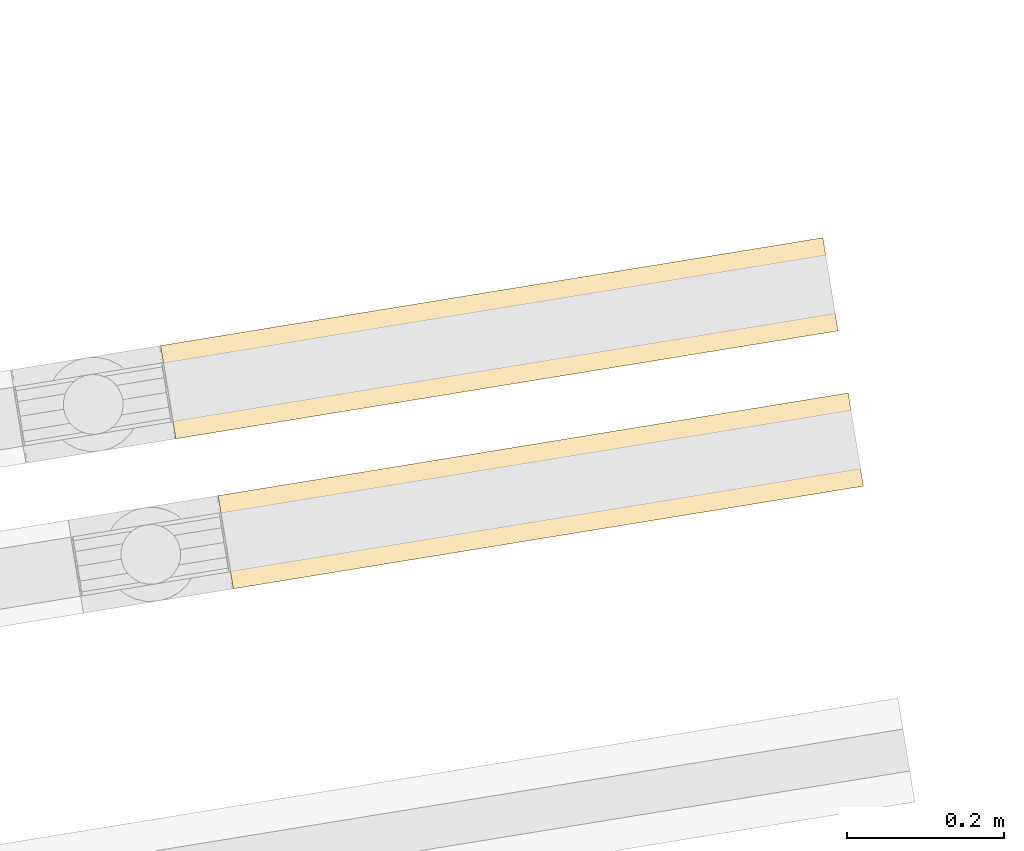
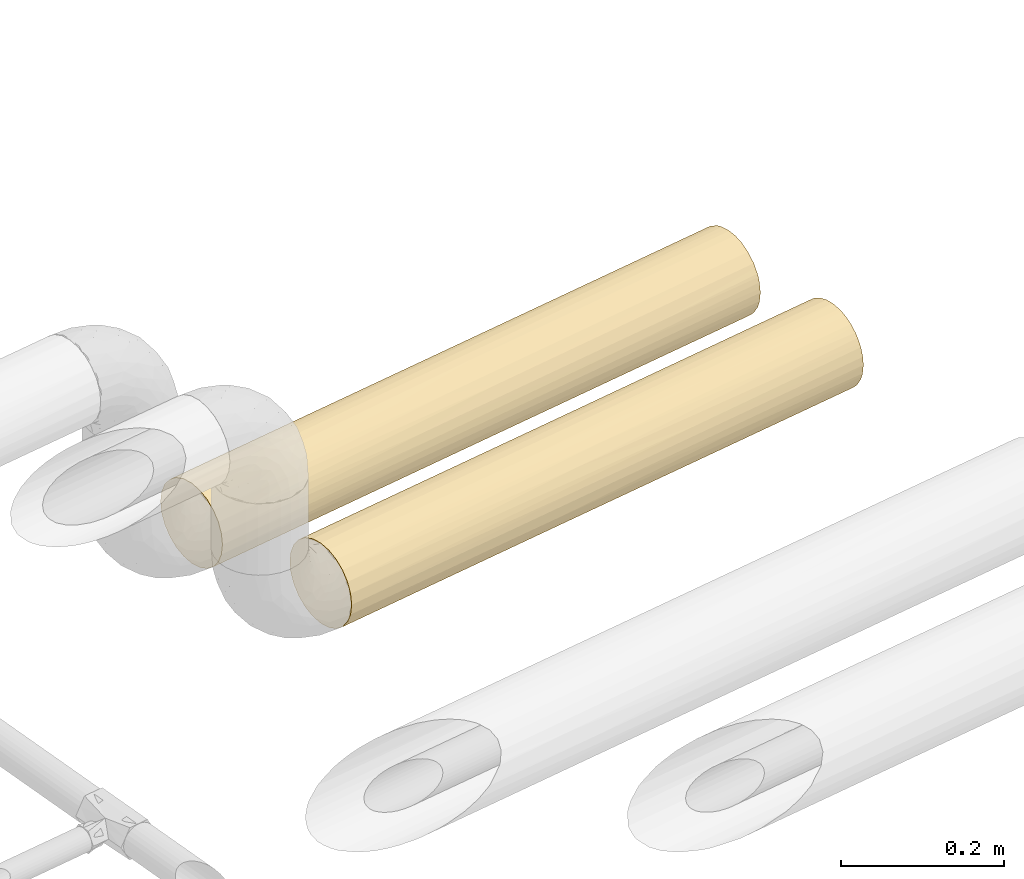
# One storey, part 17 of 56: 2 coverings.
"""IFC2X3 building model written with IfcOpenShell, lengths in millimetres."""

from ifc_helpers import new_model, entity, si_unit, converted_unit, derived_unit, direction, frame, origin, origin_with_axes, place, context, subcontext, project, spatial, faceted_brep, type_object, element, save


model = new_model("IFC2X3")

# Units and contexts
model_context = context("Model", 3, precision=0.01, world=origin(), true_north=direction((6.12323399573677e-17, 1.0)))
plan_context = context("Plan", 3, precision=1e-05, world=origin_with_axes())
body_context = subcontext(model_context, "Body", "Model", "MODEL_VIEW")
ifc_project = project(units=[converted_unit("PLANEANGLEUNIT", "DEGREE", entity("IfcPositiveLengthMeasure", 0.0174532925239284), si_unit("PLANEANGLEUNIT", "RADIAN"), dimensions=[0, 0, 0, 0, 0, 0, 0]), si_unit("AREAUNIT", "SQUARE_METRE"), si_unit("LENGTHUNIT", "METRE", prefix="MILLI"), si_unit("MASSUNIT", "GRAM", prefix="KILO"), si_unit("POWERUNIT", "WATT"), si_unit("PRESSUREUNIT", "PASCAL", prefix="KILO"), si_unit("FORCEUNIT", "NEWTON", prefix="KILO"), si_unit("ELECTRICVOLTAGEUNIT", "VOLT"), si_unit("ELECTRICCURRENTUNIT", "AMPERE"), si_unit("THERMODYNAMICTEMPERATUREUNIT", "DEGREE_CELSIUS"), si_unit("TIMEUNIT", "SECOND"), si_unit("VOLUMEUNIT", "CUBIC_METRE"), derived_unit("LINEARVELOCITYUNIT", [(si_unit("LENGTHUNIT", "METRE"), 1), (si_unit("TIMEUNIT", "SECOND"), -1)]), derived_unit("VOLUMETRICFLOWRATEUNIT", [(si_unit("VOLUMEUNIT", "CUBIC_METRE"), 1), (si_unit("TIMEUNIT", "SECOND"), -1)]), derived_unit("THERMALTRANSMITTANCEUNIT", [(si_unit("POWERUNIT", "WATT"), 1), (si_unit("THERMODYNAMICTEMPERATUREUNIT", "KELVIN"), -1), (si_unit("AREAUNIT", "SQUARE_METRE"), -1)]), derived_unit("SOUNDPRESSUREUNIT", [(si_unit("PRESSUREUNIT", "PASCAL"), 1)])], contexts=[model_context, plan_context])

# Site, building, storey
site_placement = place(None, frame((-3.09682673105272e-06, 1.93776733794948e-05, 0.0), z_axis=(0.0, 0.0, 1.0), x_axis=(-0.160806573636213, 0.986985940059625, 0.0)))
site = spatial("IfcSite", under=ifc_project, at=site_placement, Name="Default", CompositionType="ELEMENT")
building_placement = place(site_placement, frame((0.0, 0.0, 0.0), z_axis=(0.0, 0.0, 1.0), x_axis=(1.0, -2.77555756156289e-17, 0.0)))
building = spatial("IfcBuilding", under=site, at=building_placement, Name="Bygning (endres i Project Information)", CompositionType="ELEMENT")
storey_placement = place(building_placement, frame((0.0, 0.0, 51360.0000000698), z_axis=(0.0, 0.0, 1.0), x_axis=(1.0, -2.77555756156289e-17, 0.0)))
storey = spatial("IfcBuildingStorey", under=building, at=storey_placement, Name="H01-Nivå D+0,36", CompositionType="ELEMENT", Elevation=51360.0000000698)

# Coverings
covering_type = type_object("IfcCoveringType", Name="Pipe Insulation:GLAVA avløpsisol. slange økende 19mm (15,5-25,0)", PredefinedType="INSULATION")
covering_1_placement = place(storey_placement, frame((1011626.7223714, -397714.315734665, 3361.64527153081), z_axis=(0.0, 0.0, 1.0), x_axis=(1.0, -2.77555756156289e-17, 0.0)))
element("IfcCovering", 1, at=covering_1_placement, inside=storey, type_object=covering_type, Name="Pipe Insulation:GLAVA avløpsisol. slange økende 19mm (15,5-25,0)", ObjectType="Pipe Insulation:GLAVA avløpsisol. slange økende 19mm (15,5-25,0)", PredefinedType="INSULATION", context=body_context, shape_type="Brep", body=[
    faceted_brep([(31.6202718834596, 1947.0, -9.64044664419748), (19.1835098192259, 1947.0, -19.183509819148), (9.64044664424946, 1947.0, -31.6202718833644), (3.64142634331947, 1947.0, -46.1031880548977), (1.59527223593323, 1947.0, -61.6452715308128), (3.64142634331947, 1947.0, -77.1873550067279), (9.64044664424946, 1947.0, -91.6702711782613), (19.1835098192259, 1947.0, -104.107033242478), (31.6202718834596, 1947.0, -113.650096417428), (46.103188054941, 1947.0, -119.649116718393), (61.6452715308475, 1947.0, -121.69527082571), (77.1873550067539, 1947.0, -119.649116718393), (91.6702711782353, 1947.0, -113.650096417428), (104.107033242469, 1947.0, -104.107033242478), (113.650096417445, 1947.0, -91.6702711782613), (119.649116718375, 1947.0, -77.1873550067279), (121.695270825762, 1947.0, -61.6452715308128), (119.649116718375, 1947.0, -46.1031880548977), (113.650096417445, 1947.0, -31.6202718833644), (104.107033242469, 1947.0, -19.183509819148), (91.6702711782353, 1947.0, -9.64044664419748), (77.1873550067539, 1947.0, -3.64142634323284), (61.6452715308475, 1947.0, -1.5952722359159), (46.103188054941, 1947.0, -3.64142634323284), (100.415582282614, 1135.23167786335, -107.225652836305), (106.2381784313, 1135.23167786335, -101.729188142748), (104.730043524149, 1215.25672826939, -103.474744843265), (97.2269087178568, 1135.23167786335, -110.015932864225), (98.201394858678, 1536.73526809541, -109.28613909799), (109.286138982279, 1583.05272306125, -98.2013950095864), (111.755784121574, 1278.27635835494, -94.7351331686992), (117.124236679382, 1393.32019884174, -84.6254116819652), (114.714479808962, 1135.23167786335, -88.8623379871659), (117.699317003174, 1135.23167786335, -83.1480972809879), (119.399972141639, 1135.23167786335, -77.2556246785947), (120.752876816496, 1298.48679588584, -72.2421301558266), (120.777933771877, 1135.23167786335, -72.100672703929), (121.493485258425, 1135.23167786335, -59.4205630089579), (120.124720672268, 1135.23167786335, -48.1562262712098), (120.71528746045, 1339.30504479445, -50.8408449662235), (121.695270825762, 1135.23167786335, -61.6452715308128), (121.695270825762, 1514.65787398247, -61.6452715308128), (119.264415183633, 1621.50531674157, -44.7326519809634), (115.103418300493, 1611.67960646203, -34.2914973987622), (109.286139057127, 1536.73526984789, -25.0891481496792), (98.2013949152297, 1583.05272576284, -14.0044040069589), (103.474744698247, 1215.25672981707, -18.5604993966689), (110.015932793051, 1135.23167786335, -26.0636342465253), (107.225652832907, 1135.23167786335, -22.8749607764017), (101.729187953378, 1135.23167786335, -17.0523644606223), (116.285623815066, 1135.23167786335, -36.7726166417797), (111.742207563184, 1135.23167786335, -29.0860600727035), (117.124236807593, 1341.78697641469, -38.6651316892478), (118.848753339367, 1135.23167786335, -43.8270256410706), (73.1648934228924, 1135.23167786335, -2.71056545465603), (73.1632274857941, 1135.23167786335, -2.71036248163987), (73.1645694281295, 1135.26319858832, -2.71049239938), (73.1680212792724, 1135.23167786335, -2.71158232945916), (85.6093439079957, 1135.23167786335, -6.5889125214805), (84.6254113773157, 1393.32020453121, -6.16630625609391), (89.9750119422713, 1135.23167786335, -8.92726226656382), (94.7351329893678, 1278.27636287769, -11.5347588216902), (73.5038223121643, 1593.1672010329, -2.77781712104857), (61.6452715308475, 1405.84076529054, -1.59527223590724), (61.6452715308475, 1514.65347716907, -1.59527223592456), (44.7326519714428, 1621.50531687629, -4.02612788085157), (50.8408449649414, 1339.30504523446, -2.57525560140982), (38.665131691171, 1341.78697651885, -6.16630625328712), (34.2914973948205, 1611.67960648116, -8.18712476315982), (25.0891481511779, 1536.73526973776, -14.0044040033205), (14.0044040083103, 1583.05272552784, -25.089148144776), (18.5604994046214, 1215.25673025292, -19.8157983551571), (26.0636342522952, 1135.23167786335, -13.2746102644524), (22.874960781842, 1135.23167786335, -16.0648902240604), (17.0523644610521, 1135.23167786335, -21.5613551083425), (36.7726166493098, 1135.23167786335, -7.00491924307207), (29.0860600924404, 1135.23167786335, -11.5483354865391), (43.8270256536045, 1135.23167786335, -4.44178971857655), (59.4204905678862, 1135.23167786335, -1.7970643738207), (48.1562262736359, 1135.23167786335, -3.16582238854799), (2.71056545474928, 1135.23167786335, -50.1256496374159), (2.71036248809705, 1135.23167786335, -50.1273155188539), (2.7104924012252, 1135.2631978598, -50.1259736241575), (2.71158230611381, 1135.23167786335, -50.1225218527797), (6.58891252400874, 1135.23167786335, -37.6811991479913), (6.166306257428, 1393.32020438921, -38.6651316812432), (8.92726227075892, 1135.23167786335, -33.3155311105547), (11.5347588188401, 1278.27636274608, -28.5554100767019), (2.77781712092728, 1593.16720079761, -49.7867207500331), (1.59527223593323, 1405.84220919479, -61.6452715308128), (1.59527223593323, 1514.65668235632, -61.6452715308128), (4.02612788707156, 1621.50531713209, -78.5578911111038), (2.57525560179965, 1339.30504612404, -72.4496980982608), (6.16630625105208, 1341.78697662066, -84.625411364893), (8.18712476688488, 1611.67960634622, -88.999045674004), (14.0044039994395, 1536.73526944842, -98.2013949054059), (25.0891481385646, 1583.05272498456, -109.28613904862), (19.8157983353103, 1215.25673113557, -104.730043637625), (13.2746102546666, 1135.23167786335, -97.2269087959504), (16.0648902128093, 1135.23167786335, -100.415582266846), (21.5613551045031, 1135.23167786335, -106.238178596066), (7.00491923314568, 1135.23167786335, -86.5179263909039), (11.5483354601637, 1135.23167786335, -94.2044829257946), (4.44178970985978, 1135.23167786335, -79.4635173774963), (1.79706501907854, 1135.23167786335, -63.870059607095), (3.16582238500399, 1135.23167786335, -75.1343167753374), (50.1256496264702, 1135.23167786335, -120.579977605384), (50.1273154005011, 1135.23167786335, -120.580180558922), (50.1259735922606, 1135.26319580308, -120.580050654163), (50.1225220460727, 1135.23167786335, -120.578960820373), (37.6811991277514, 1135.23167786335, -116.701630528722), (38.6651316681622, 1393.32020394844, -117.124236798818), (33.3155310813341, 1135.23167786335, -114.36328077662), (28.5554100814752, 1278.27636236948, -111.755784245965), (49.7867207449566, 1593.16720014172, -120.512725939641), (61.6452715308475, 1405.84231915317, -121.695270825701), (61.6452715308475, 1514.6580858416, -121.695270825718), (78.5578911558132, 1621.50531755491, -119.264415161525), (72.4496980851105, 1339.30504809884, -120.71528746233), (84.6254113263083, 1341.78697605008, -117.124236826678), (88.9990456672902, 1611.67960500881, -115.103418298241), (75.1343166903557, 1135.23167786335, -120.124720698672), (79.4635172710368, 1135.23167786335, -118.848753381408), (63.8699658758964, 1135.23167786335, -121.493486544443), (86.5179262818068, 1135.23167786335, -116.285623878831), (94.2044827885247, 1135.23167786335, -111.742207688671), (61.6452715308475, 1135.23167786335, -121.695270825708), (26.928543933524, 1135.23167786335, -110.59667329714), (1.59527223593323, 1135.23167786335, -61.6452715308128), (12.6938697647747, 1135.23167786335, -26.92854393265), (61.6452715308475, 1135.23167786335, -1.59527223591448), (96.3619991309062, 1135.23167786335, -12.6938697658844), (120.002522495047, 1616.67130978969, -75.8027315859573), (121.464584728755, 1135.23167786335, -64.2392480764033), (110.596673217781, 1135.23167786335, -96.3619992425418)], [[[0, 1, 2, 3, 4, 5, 6, 7, 8, 9, 10, 11, 12, 13, 14, 15, 16, 17, 18, 19, 20, 21, 22, 23]], [[24, 25, 26]], [[27, 24, 26, 28]], [[28, 26, 29]], [[29, 26, 30]], [[31, 29, 30]], [[32, 33, 31, 30]], [[33, 34, 35, 31]], [[34, 36, 35]], [[37, 38, 39]], [[40, 37, 39, 41]], [[39, 42, 41]], [[42, 16, 41]], [[16, 42, 17]], [[42, 43, 17]], [[18, 17, 43]], [[43, 44, 18]], [[44, 19, 18]], [[19, 44, 45]], [[44, 46, 45]], [[47, 48, 46, 44]], [[48, 49, 46]], [[50, 51, 52]], [[53, 50, 52]], [[54, 55, 56]], [[57, 54, 56]], [[58, 57, 56, 59]], [[60, 58, 59, 61]], [[59, 45, 61]], [[45, 59, 20]], [[59, 21, 20]], [[59, 62, 21]], [[21, 62, 22]], [[63, 64, 22, 62]], [[63, 62, 56]], [[65, 22, 64]], [[66, 65, 64]], [[66, 67, 65]], [[68, 65, 67]], [[65, 68, 23]], [[0, 23, 68]], [[68, 69, 0]], [[69, 1, 0]], [[1, 69, 70]], [[69, 71, 70]], [[72, 73, 71, 69]], [[73, 74, 71]], [[75, 76, 67]], [[77, 75, 67]], [[78, 79, 66]], [[80, 81, 82]], [[83, 80, 82]], [[84, 83, 82, 85]], [[86, 84, 85, 87]], [[85, 70, 87]], [[70, 85, 2]], [[85, 3, 2]], [[85, 88, 3]], [[3, 88, 4]], [[89, 90, 4, 88]], [[89, 88, 82]], [[91, 4, 90]], [[92, 91, 90]], [[92, 93, 91]], [[94, 91, 93]], [[91, 94, 5]], [[6, 5, 94]], [[94, 95, 6]], [[95, 7, 6]], [[7, 95, 96]], [[95, 97, 96]], [[98, 99, 97, 95]], [[99, 100, 97]], [[101, 102, 93]], [[103, 101, 93]], [[104, 105, 92]], [[106, 107, 108]], [[109, 106, 108]], [[110, 109, 108, 111]], [[112, 110, 111, 113]], [[111, 96, 113]], [[96, 111, 8]], [[111, 9, 8]], [[111, 114, 9]], [[9, 114, 10]], [[115, 116, 10, 114]], [[115, 114, 108]], [[117, 10, 116]], [[118, 117, 116]], [[118, 119, 117]], [[120, 117, 119]], [[117, 120, 11]], [[12, 11, 120]], [[120, 28, 12]], [[28, 13, 12]], [[28, 120, 119]], [[121, 122, 119, 118]], [[123, 121, 118]], [[124, 125, 119]], [[122, 124, 119]], [[10, 117, 11]], [[126, 123, 118, 116]], [[111, 108, 114]], [[107, 126, 115, 108]], [[127, 112, 113]], [[100, 127, 113, 97]], [[102, 98, 95, 93]], [[96, 97, 113]], [[96, 8, 7]], [[95, 94, 93]], [[105, 103, 93, 92]], [[4, 91, 5]], [[128, 104, 92, 90]], [[85, 82, 88]], [[81, 128, 89, 82]], [[129, 86, 87]], [[74, 129, 87, 71]], [[76, 72, 69, 67]], [[70, 71, 87]], [[70, 2, 1]], [[69, 68, 67]], [[79, 77, 67, 66]], [[22, 65, 23]], [[130, 78, 66, 64]], [[59, 56, 62]], [[55, 130, 63, 56]], [[131, 60, 61]], [[49, 131, 61, 46]], [[51, 47, 44, 52]], [[45, 46, 61]], [[45, 20, 19]], [[44, 43, 52]], [[43, 42, 52]], [[132, 41, 16]], [[16, 15, 132]], [[15, 14, 132]], [[31, 132, 14]], [[41, 132, 35]], [[39, 52, 42]], [[133, 40, 41, 35]], [[38, 53, 52, 39]], [[36, 133, 35]], [[31, 35, 132]], [[29, 31, 14]], [[29, 14, 13]], [[28, 29, 13]], [[125, 27, 28, 119]], [[25, 134, 30, 26]], [[134, 32, 30]], [[27, 125, 124, 122, 121, 123, 126, 108, 110, 112, 127, 100, 99, 98, 102, 101, 103, 105, 104, 128, 82, 84, 86, 129, 74, 73, 72, 76, 75, 77, 79, 78, 130, 56, 58, 60, 131, 49, 48, 47, 51, 50, 53, 38, 37, 40, 133, 36, 34, 33, 32, 134, 25, 24]]], orient=[[False], [False], [False], [False], [False], [False], [False], [False], [False], [False], [False], [False], [False], [False], [False], [False], [False], [False], [False], [False], [False], [False], [False], [False], [False], [False], [False], [False], [False], [False], [False], [False], [False], [False], [False], [False], [False], [False], [False], [False], [False], [False], [False], [False], [False], [False], [False], [False], [False], [False], [False], [False], [False], [False], [False], [False], [False], [False], [False], [False], [False], [False], [False], [False], [False], [False], [False], [False], [False], [False], [False], [False], [False], [False], [False], [False], [False], [False], [False], [False], [False], [False], [False], [False], [False], [False], [False], [False], [False], [False], [False], [False], [False], [False], [False], [False], [False], [False], [False], [False], [False], [False], [False], [False], [False], [False], [False], [False], [False], [False], [False], [False], [False], [False], [False], [False], [False], [False], [False], [False], [False], [False], [False], [False], [False], [False], [False], [False], [False], [False], [False], [False], [False], [False], [False], [False], [False], [False], [False], [False], [False], [False], [False], [False], [False], [False], [False], [False], [False], [False]]),
])
covering_2_placement = place(storey_placement, frame((1011826.7223714, -398014.315734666, 3238.35472846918), z_axis=(0.0, 0.0, 1.0), x_axis=(1.0, -2.77555756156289e-17, 0.0)))
element("IfcCovering", 2, at=covering_2_placement, inside=storey, type_object=covering_type, Name="Pipe Insulation:GLAVA avløpsisol. slange økende 19mm (15,5-25,0)", ObjectType="Pipe Insulation:GLAVA avløpsisol. slange økende 19mm (15,5-25,0)", PredefinedType="INSULATION", context=body_context, shape_type="Brep", body=[
    faceted_brep([(46.103188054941, 2288.49999999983, 3.64142634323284), (61.6452715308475, 2288.49999999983, 1.5952722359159), (77.1873550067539, 2288.49999999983, 3.64142634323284), (91.6702711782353, 2288.49999999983, 9.64044664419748), (104.107033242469, 2288.49999999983, 19.183509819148), (113.650096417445, 2288.49999999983, 31.6202718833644), (119.649116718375, 2288.49999999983, 46.1031880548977), (121.695270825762, 2288.49999999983, 61.6452715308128), (119.649116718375, 2288.49999999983, 77.1873550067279), (113.650096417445, 2288.49999999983, 91.6702711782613), (104.107033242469, 2288.49999999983, 104.107033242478), (91.6702711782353, 2288.49999999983, 113.650096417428), (77.1873550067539, 2288.49999999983, 119.649116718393), (61.6452715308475, 2288.49999999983, 121.69527082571), (46.103188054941, 2288.49999999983, 119.649116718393), (31.6202718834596, 2288.49999999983, 113.650096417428), (19.1835098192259, 2288.49999999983, 104.107033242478), (9.64044664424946, 2288.49999999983, 91.6702711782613), (3.64142634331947, 2288.49999999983, 77.1873550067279), (1.59527223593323, 2288.49999999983, 61.6452715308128), (3.64142634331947, 2288.49999999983, 46.1031880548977), (9.64044664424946, 2288.49999999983, 31.6202718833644), (19.1835098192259, 2288.49999999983, 19.183509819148), (31.6202718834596, 2288.49999999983, 9.64044664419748), (25.0891482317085, 1844.79783994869, 14.0044039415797), (38.6651317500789, 1968.60535789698, 6.16630622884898), (38.6651318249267, 1586.80695631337, 6.1663061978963), (50.133081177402, 1645.70959036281, 2.70910361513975), (40.4081143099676, 1435.23167786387, 5.53027358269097), (47.2136738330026, 1435.23167786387, 3.45454591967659), (55.6459865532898, 1435.23167786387, 2.17571710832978), (111.962926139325, 1435.23167786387, 29.8791420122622), (115.944882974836, 1435.23167786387, 36.127941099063), (117.124236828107, 1586.80695498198, 38.6651317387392), (117.760269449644, 1435.23167786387, 40.4081142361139), (119.835997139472, 1435.23167786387, 47.2136738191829), (120.58143943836, 1645.70958871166, 50.1330811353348), (121.114826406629, 1435.23167786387, 55.6459912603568), (93.4114010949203, 1435.23167786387, 111.962926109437), (87.1626019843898, 1435.23167786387, 115.94488296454), (84.6254113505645, 1586.80695500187, 117.12423681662), (82.8824288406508, 1435.23167786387, 117.760269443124), (76.0768692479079, 1435.23167786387, 119.835997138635), (73.1574619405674, 1645.70958861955, 120.581439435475), (67.6445469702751, 1435.23167786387, 121.114826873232), (11.3276169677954, 1435.23167786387, 93.4114011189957), (7.34566010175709, 1435.23167786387, 87.162601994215), (6.1663062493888, 1586.80695512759, 84.6254113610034), (5.53027362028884, 1435.23167786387, 82.8824288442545), (3.45454592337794, 1435.23167786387, 76.0768692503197), (2.70910362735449, 1645.70958870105, 73.157461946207), (2.1757170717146, 1435.23167786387, 67.6445560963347), (4.98565051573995, 1435.23167786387, 42.1310082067), (7.0739917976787, 1435.23167786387, 36.7049329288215), (6.16630630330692, 1609.8803977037, 38.665131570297), (13.4067693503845, 1435.23167786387, 26.3928869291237), (14.6597047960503, 1435.23167786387, 24.2516086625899), (14.0044040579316, 1919.8023161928, 25.0891480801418), (15.4381264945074, 1435.23167786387, 23.4751861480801), (24.5595944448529, 1435.23167786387, 14.4165242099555), (29.7891319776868, 1435.23167786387, 11.3720551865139), (36.1450244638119, 1435.23167786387, 7.33665467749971), (6.16630627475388, 1981.19445914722, 38.6651316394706), (2.69887282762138, 1647.20940082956, 50.1855815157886), (2.48273146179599, 1967.35023741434, 51.359540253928), (1.59527223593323, 1747.34212709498, 61.6452715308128), (2.48138199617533, 1967.51119724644, 71.9232377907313), (6.16630625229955, 1968.60535711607, 84.625411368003), (14.0044039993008, 1844.79783890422, 98.201394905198), (25.0891481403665, 1919.80231481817, 109.286139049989), (38.6651316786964, 1978.06391367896, 117.124236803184), (38.6651316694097, 1604.15483258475, 117.124236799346), (25.6793770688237, 1448.80859338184, 109.733283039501), (39.1913635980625, 1435.23167786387, 117.334158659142), (26.3026984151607, 1435.23167786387, 110.077297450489), (25.6605680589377, 1435.23167786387, 109.719033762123), (24.2885691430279, 1435.23167786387, 108.380085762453), (14.4562986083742, 1435.23167786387, 98.7812104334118), (48.5680592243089, 1435.23167786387, 120.096538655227), (50.5910619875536, 1507.43303029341, 120.669053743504), (50.2753404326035, 1851.66446678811, 120.609049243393), (61.6452715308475, 1685.40752736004, 121.69527082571), (61.6452715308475, 1435.23167786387, 121.69527082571), (57.0497513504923, 1435.23167786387, 121.268645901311), (61.6452715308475, 2017.91854209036, 121.69527082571), (61.6452715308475, 1747.34534799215, 121.69527082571), (71.9232377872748, 1967.5111971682, 120.809161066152), (84.6254113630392, 1968.60535707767, 117.124236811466), (98.2013948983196, 1844.79783878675, 109.286139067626), (109.286139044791, 1919.80231468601, 98.2013949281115), (117.124236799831, 1978.0639139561, 84.6254113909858), (117.124236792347, 1604.15483301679, 84.6254114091), (109.733283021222, 1448.80859432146, 97.611166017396), (117.334158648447, 1435.23167786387, 84.0991794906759), (110.077297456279, 1435.23167786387, 96.9878446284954), (109.71903374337, 1435.23167786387, 97.6299750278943), (108.380085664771, 1435.23167786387, 99.001974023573), (98.7812104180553, 1435.23167786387, 108.83424446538), (120.096538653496, 1435.23167786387, 74.7224838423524), (120.669053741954, 1507.43302947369, 72.6994810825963), (120.609049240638, 1851.66446682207, 73.0152026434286), (121.695270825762, 1685.40900113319, 61.6452715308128), (121.695270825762, 1435.23167786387, 61.6452715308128), (121.268663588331, 1435.23167786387, 66.240601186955), (121.695270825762, 2017.92301750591, 61.6452715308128), (121.695270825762, 1747.34229789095, 61.6452715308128), (120.809161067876, 1967.51119711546, 51.3673052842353), (117.12423681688, 1968.60535712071, 38.6651317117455), (109.286139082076, 1844.79783873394, 25.0891481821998), (98.2013949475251, 1919.80231463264, 14.0044040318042), (84.625411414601, 1978.06391467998, 6.16630627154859), (84.6254114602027, 1604.15483421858, 6.16630629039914), (97.6111660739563, 1448.80859601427, 13.5572600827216), (84.0991795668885, 1435.23167786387, 5.95638444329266), (96.9878446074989, 1435.23167786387, 13.2132456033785), (97.6299750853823, 1435.23167786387, 13.5715093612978), (99.0019742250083, 1435.23167786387, 14.9104575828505), (108.834244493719, 1435.23167786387, 24.5093326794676), (74.72248387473, 1435.23167786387, 3.19400441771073), (72.6994811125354, 1507.43302784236, 2.62148932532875), (73.0152026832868, 1851.66446707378, 2.68149382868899), (61.6452715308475, 1685.40785861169, 1.5952722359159), (61.6452715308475, 1435.23167786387, 1.5952722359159), (66.2406143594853, 1435.23167786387, 2.02188069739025), (61.6452715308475, 2017.92086656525, 1.5952722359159), (61.6452715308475, 1747.34233978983, 1.5952722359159), (51.367305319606, 1967.51119760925, 2.48138198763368), (1.59527223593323, 1435.23167786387, 61.6452715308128), (2.16842974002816, 1435.23167786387, 55.6936551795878), (3.20864216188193, 1435.23167786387, 47.9884242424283), (50.6891160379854, 1435.23167786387, 120.687059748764), (120.687059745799, 1435.23167786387, 72.6014270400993), (72.6014270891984, 1435.23167786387, 2.6034833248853)], [[[0, 1, 2, 3, 4, 5, 6, 7, 8, 9, 10, 11, 12, 13, 14, 15, 16, 17, 18, 19, 20, 21, 22, 23]], [[24, 23, 22]], [[23, 24, 25]], [[26, 25, 24]], [[26, 27, 25]], [[28, 29, 27, 26]], [[29, 30, 27]], [[31, 32, 33]], [[32, 34, 33]], [[34, 35, 36, 33]], [[35, 37, 36]], [[38, 39, 40]], [[39, 41, 40]], [[41, 42, 43, 40]], [[42, 44, 43]], [[45, 46, 47]], [[46, 48, 47]], [[48, 49, 50, 47]], [[49, 51, 50]], [[52, 53, 54]], [[53, 55, 54]], [[55, 56, 57, 54]], [[56, 58, 24, 57]], [[58, 59, 24]], [[60, 61, 26]], [[54, 57, 62]], [[54, 62, 63]], [[62, 64, 63]], [[64, 62, 20]], [[19, 64, 20]], [[65, 64, 19]], [[66, 65, 19]], [[50, 65, 66]], [[50, 66, 67]], [[18, 67, 66]], [[17, 67, 18]], [[17, 68, 67]], [[47, 67, 68]], [[17, 16, 68]], [[68, 16, 69]], [[15, 69, 16]], [[15, 70, 69]], [[71, 69, 70]], [[71, 72, 69]], [[73, 74, 72, 71]], [[74, 75, 72]], [[75, 76, 72]], [[76, 77, 68, 72]], [[78, 73, 71, 79]], [[80, 79, 71]], [[80, 81, 79]], [[82, 83, 79, 81]], [[84, 85, 81, 80]], [[84, 80, 14]], [[70, 14, 80]], [[13, 84, 14]], [[85, 84, 13, 86]], [[43, 85, 86]], [[43, 86, 87]], [[12, 87, 86]], [[11, 87, 12]], [[11, 88, 87]], [[40, 87, 88]], [[11, 10, 88]], [[88, 10, 89]], [[9, 89, 10]], [[9, 90, 89]], [[91, 89, 90]], [[91, 92, 89]], [[93, 94, 92, 91]], [[94, 95, 92]], [[95, 96, 92]], [[96, 97, 88, 92]], [[98, 93, 91, 99]], [[100, 99, 91]], [[100, 101, 99]], [[102, 103, 99, 101]], [[104, 105, 101, 100]], [[104, 100, 8]], [[90, 8, 100]], [[7, 104, 8]], [[105, 104, 7, 106]], [[36, 105, 106]], [[36, 106, 107]], [[6, 107, 106]], [[5, 107, 6]], [[5, 108, 107]], [[33, 107, 108]], [[5, 4, 108]], [[108, 4, 109]], [[3, 109, 4]], [[3, 110, 109]], [[111, 109, 110]], [[111, 112, 109]], [[113, 114, 112, 111]], [[114, 115, 112]], [[115, 116, 112]], [[116, 117, 108, 112]], [[118, 113, 111, 119]], [[120, 119, 111]], [[120, 121, 119]], [[122, 123, 119, 121]], [[124, 125, 121, 120]], [[124, 120, 2]], [[110, 2, 120]], [[1, 124, 2]], [[125, 124, 1, 126]], [[27, 125, 126]], [[0, 126, 1]], [[0, 25, 126]], [[110, 120, 111]], [[3, 2, 110]], [[109, 112, 108]], [[6, 106, 7]], [[90, 100, 91]], [[9, 8, 90]], [[89, 92, 88]], [[12, 86, 13]], [[70, 80, 71]], [[15, 14, 70]], [[69, 72, 68]], [[18, 66, 19]], [[21, 20, 62]], [[64, 65, 63]], [[127, 128, 63, 65]], [[128, 129, 63]], [[21, 62, 57]], [[21, 57, 22]], [[129, 52, 54, 63]], [[51, 127, 65, 50]], [[47, 50, 67]], [[77, 45, 47, 68]], [[130, 78, 79]], [[83, 130, 79]], [[44, 82, 85, 43]], [[40, 43, 87]], [[97, 38, 40, 88]], [[131, 98, 99]], [[103, 131, 99]], [[37, 102, 105, 36]], [[33, 36, 107]], [[117, 31, 33, 108]], [[132, 118, 119]], [[123, 132, 119]], [[30, 122, 125, 27]], [[61, 28, 26]], [[27, 126, 25]], [[59, 60, 26, 24]], [[23, 25, 0]], [[24, 22, 57]], [[61, 60, 59, 58, 56, 55, 53, 52, 129, 128, 127, 51, 49, 48, 46, 45, 77, 76, 75, 74, 73, 78, 130, 83, 82, 44, 42, 41, 39, 38, 97, 96, 95, 94, 93, 98, 131, 103, 102, 37, 35, 34, 32, 31, 117, 116, 115, 114, 113, 118, 132, 123, 122, 30, 29, 28]]], orient=[[False], [False], [False], [False], [False], [False], [False], [False], [False], [False], [False], [False], [False], [False], [False], [False], [False], [False], [False], [False], [False], [False], [False], [False], [False], [False], [False], [False], [False], [False], [False], [False], [False], [False], [False], [False], [False], [False], [False], [False], [False], [False], [False], [False], [False], [False], [False], [False], [False], [False], [False], [False], [False], [False], [False], [False], [False], [False], [False], [False], [False], [False], [False], [False], [False], [False], [False], [False], [False], [False], [False], [False], [False], [False], [False], [False], [False], [False], [False], [False], [False], [False], [False], [False], [False], [False], [False], [False], [False], [False], [False], [False], [False], [False], [False], [False], [False], [False], [False], [False], [False], [False], [False], [False], [False], [False], [False], [False], [False], [False], [False], [False], [False], [False], [False], [False], [False], [False], [False], [False], [False], [False], [False], [False], [False], [False], [False], [False], [False], [False], [False], [False], [False], [False], [False], [False], [False], [False], [False], [False], [False], [False], [False], [False], [False], [False], [False], [False], [False], [False], [False]]),
])

save(model, "model.ifc")
